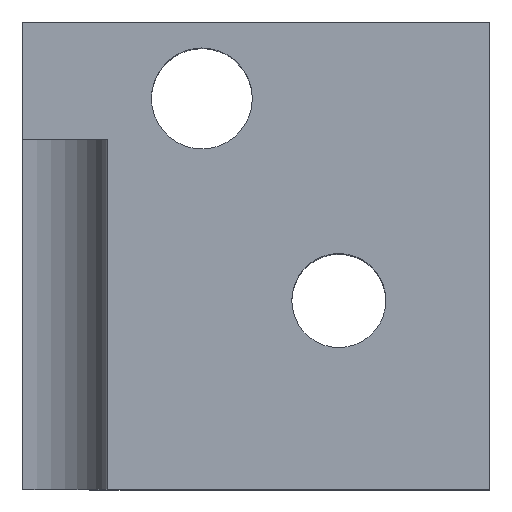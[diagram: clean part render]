
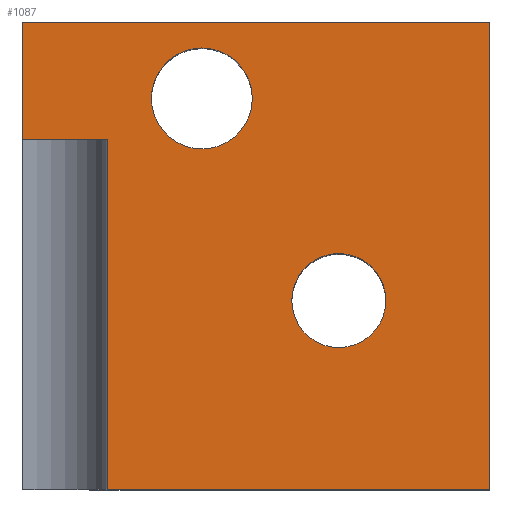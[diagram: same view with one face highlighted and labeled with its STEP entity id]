
A CAD part, top view. The second image highlights one B-rep face of the part: STEP entity #1087.
In plain terms, the highlighted planar face has unit normal (0, 0, 1).
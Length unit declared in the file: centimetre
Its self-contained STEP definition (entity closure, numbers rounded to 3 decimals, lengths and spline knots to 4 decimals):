
#7 = LINE ( 'NONE', #627, #489 ) ;
#22 = DIRECTION ( 'NONE',  ( 0., 0., 1. ) ) ;
#27 = VERTEX_POINT ( 'NONE', #1260 ) ;
#64 = VERTEX_POINT ( 'NONE', #927 ) ;
#65 = CARTESIAN_POINT ( 'NONE',  ( 181.6613, 0., 1000. ) ) ;
#99 = EDGE_CURVE ( 'NONE', #247, #720, #699, .T. ) ;
#100 = DIRECTION ( 'NONE',  ( 0., 0., -1. ) ) ;
#137 = ORIENTED_EDGE ( 'NONE', *, *, #99, .T. ) ;
#150 = EDGE_CURVE ( 'NONE', #270, #994, #633, .T. ) ;
#152 = DIRECTION ( 'NONE',  ( 1., 0., 0. ) ) ;
#155 = CARTESIAN_POINT ( 'NONE',  ( 0., 749.4494, 1000. ) ) ;
#180 = LINE ( 'NONE', #886, #635 ) ;
#187 = DIRECTION ( 'NONE',  ( 0., 0., -1. ) ) ;
#191 = CARTESIAN_POINT ( 'NONE',  ( 0., 1000., 1000. ) ) ;
#208 = CARTESIAN_POINT ( 'NONE',  ( 384.1406, 836.3777, 1000. ) ) ;
#210 = DIRECTION ( 'NONE',  ( -1., 0., 0. ) ) ;
#223 = EDGE_LOOP ( 'NONE', ( #1334, #1172 ) ) ;
#247 = VERTEX_POINT ( 'NONE', #191 ) ;
#252 = AXIS2_PLACEMENT_3D ( 'NONE', #208, #100, #702 ) ;
#255 = FACE_BOUND ( 'NONE', #996, .T. ) ;
#259 = VECTOR ( 'NONE', #1344, 100. ) ;
#270 = VERTEX_POINT ( 'NONE', #65 ) ;
#282 = CARTESIAN_POINT ( 'NONE',  ( 181.6613, 749.4494, 1000. ) ) ;
#285 = ORIENTED_EDGE ( 'NONE', *, *, #431, .T. ) ;
#306 = CARTESIAN_POINT ( 'NONE',  ( 384.1406, 836.3777, 1000. ) ) ;
#379 = DIRECTION ( 'NONE',  ( 1., 0., 0. ) ) ;
#422 = VECTOR ( 'NONE', #1111, 100. ) ;
#431 = EDGE_CURVE ( 'NONE', #1066, #525, #1506, .T. ) ;
#462 = DIRECTION ( 'NONE',  ( -1., 0., 0. ) ) ;
#489 = VECTOR ( 'NONE', #152, 100. ) ;
#495 = FACE_BOUND ( 'NONE', #223, .T. ) ;
#499 = ORIENTED_EDGE ( 'NONE', *, *, #1295, .T. ) ;
#517 = AXIS2_PLACEMENT_3D ( 'NONE', #1157, #1125, #656 ) ;
#525 = VERTEX_POINT ( 'NONE', #915 ) ;
#529 = CARTESIAN_POINT ( 'NONE',  ( 777.9411, 403.7592, 1000. ) ) ;
#536 = ORIENTED_EDGE ( 'NONE', *, *, #1072, .F. ) ;
#554 = EDGE_CURVE ( 'NONE', #525, #1066, #1519, .T. ) ;
#559 = CARTESIAN_POINT ( 'NONE',  ( 0., 0., 1000. ) ) ;
#580 = LINE ( 'NONE', #1409, #756 ) ;
#593 = EDGE_CURVE ( 'NONE', #994, #64, #180, .T. ) ;
#606 = CARTESIAN_POINT ( 'NONE',  ( 276.1134, 836.3777, 1000. ) ) ;
#627 = CARTESIAN_POINT ( 'NONE',  ( 0., 749.4494, 1000. ) ) ;
#633 = LINE ( 'NONE', #559, #422 ) ;
#635 = VECTOR ( 'NONE', #1137, 100. ) ;
#656 = DIRECTION ( 'NONE',  ( -1., 0., 0. ) ) ;
#695 = CIRCLE ( 'NONE', #252, 108.0272 ) ;
#696 = EDGE_CURVE ( 'NONE', #1126, #27, #695, .T. ) ;
#699 = LINE ( 'NONE', #1185, #848 ) ;
#701 = CARTESIAN_POINT ( 'NONE',  ( 1000., 0., 1000. ) ) ;
#702 = DIRECTION ( 'NONE',  ( -1., 0., 0. ) ) ;
#709 = PLANE ( 'NONE',  #1229 ) ;
#716 = FACE_OUTER_BOUND ( 'NONE', #738, .T. ) ;
#720 = VERTEX_POINT ( 'NONE', #155 ) ;
#725 = CARTESIAN_POINT ( 'NONE',  ( 677.2529, 403.7592, 1000. ) ) ;
#738 = EDGE_LOOP ( 'NONE', ( #536, #839, #1377, #499, #137, #859 ) ) ;
#740 = ORIENTED_EDGE ( 'NONE', *, *, #554, .T. ) ;
#756 = VECTOR ( 'NONE', #462, 100. ) ;
#839 = ORIENTED_EDGE ( 'NONE', *, *, #150, .T. ) ;
#848 = VECTOR ( 'NONE', #1498, 100. ) ;
#859 = ORIENTED_EDGE ( 'NONE', *, *, #1044, .T. ) ;
#866 = CARTESIAN_POINT ( 'NONE',  ( 0., 0., 1000. ) ) ;
#882 = CARTESIAN_POINT ( 'NONE',  ( 181.6613, 749.4494, 1000. ) ) ;
#886 = CARTESIAN_POINT ( 'NONE',  ( 1000., 1000., 1000. ) ) ;
#912 = EDGE_CURVE ( 'NONE', #27, #1126, #1481, .T. ) ;
#915 = CARTESIAN_POINT ( 'NONE',  ( 576.5648, 403.7592, 1000. ) ) ;
#927 = CARTESIAN_POINT ( 'NONE',  ( 1000., 1000., 1000. ) ) ;
#994 = VERTEX_POINT ( 'NONE', #701 ) ;
#996 = EDGE_LOOP ( 'NONE', ( #740, #285 ) ) ;
#998 = LINE ( 'NONE', #882, #259 ) ;
#1044 = EDGE_CURVE ( 'NONE', #720, #1152, #7, .T. ) ;
#1066 = VERTEX_POINT ( 'NONE', #529 ) ;
#1072 = EDGE_CURVE ( 'NONE', #270, #1152, #998, .T. ) ;
#1087 = ADVANCED_FACE ( 'NONE', ( #495, #255, #716 ), #709, .T. ) ;
#1111 = DIRECTION ( 'NONE',  ( 1., 0., 0. ) ) ;
#1125 = DIRECTION ( 'NONE',  ( 0., 0., -1. ) ) ;
#1126 = VERTEX_POINT ( 'NONE', #606 ) ;
#1136 = AXIS2_PLACEMENT_3D ( 'NONE', #306, #187, #210 ) ;
#1137 = DIRECTION ( 'NONE',  ( 0., 1., 0. ) ) ;
#1152 = VERTEX_POINT ( 'NONE', #282 ) ;
#1157 = CARTESIAN_POINT ( 'NONE',  ( 677.2529, 403.7592, 1000. ) ) ;
#1172 = ORIENTED_EDGE ( 'NONE', *, *, #912, .T. ) ;
#1185 = CARTESIAN_POINT ( 'NONE',  ( 0., 1000., 1000. ) ) ;
#1199 = DIRECTION ( 'NONE',  ( 0., 0., -1. ) ) ;
#1229 = AXIS2_PLACEMENT_3D ( 'NONE', #866, #22, #379 ) ;
#1260 = CARTESIAN_POINT ( 'NONE',  ( 492.1678, 836.3777, 1000. ) ) ;
#1295 = EDGE_CURVE ( 'NONE', #64, #247, #580, .T. ) ;
#1334 = ORIENTED_EDGE ( 'NONE', *, *, #696, .T. ) ;
#1344 = DIRECTION ( 'NONE',  ( 0., 1., 0. ) ) ;
#1377 = ORIENTED_EDGE ( 'NONE', *, *, #593, .T. ) ;
#1409 = CARTESIAN_POINT ( 'NONE',  ( 0., 1000., 1000. ) ) ;
#1450 = DIRECTION ( 'NONE',  ( -1., 0., 0. ) ) ;
#1481 = CIRCLE ( 'NONE', #1136, 108.0272 ) ;
#1483 = AXIS2_PLACEMENT_3D ( 'NONE', #725, #1199, #1450 ) ;
#1498 = DIRECTION ( 'NONE',  ( 0., -1., 0. ) ) ;
#1506 = CIRCLE ( 'NONE', #1483, 100.6881 ) ;
#1519 = CIRCLE ( 'NONE', #517, 100.6881 ) ;
